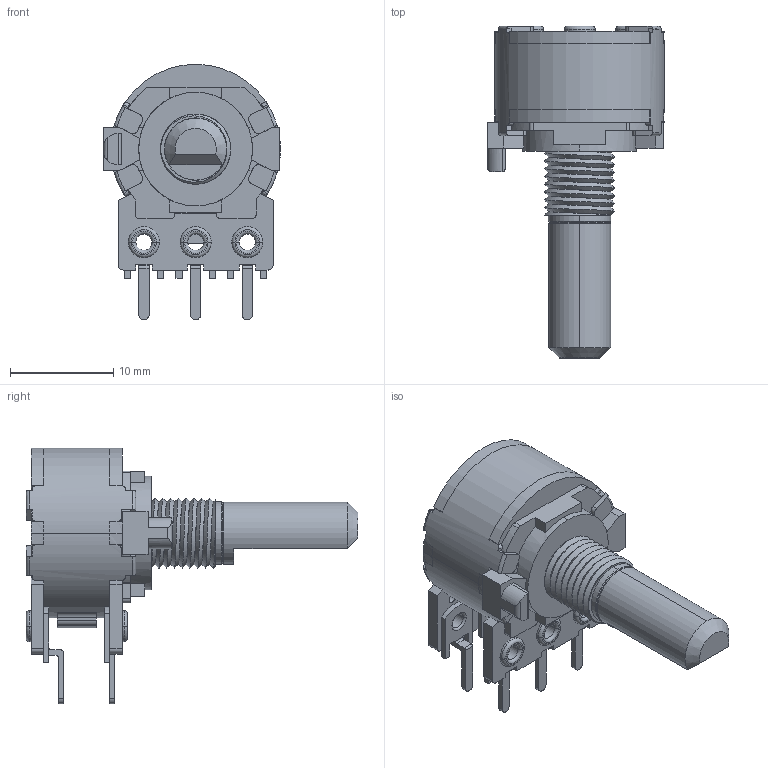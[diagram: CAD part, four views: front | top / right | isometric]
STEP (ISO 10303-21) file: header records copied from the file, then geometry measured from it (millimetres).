
FILE_DESCRIPTION (( 'STEP AP214' ), '1' );
FILE_NAME ('RK16312-L20.STEP', '2012-02-21T02:20:45', ( '' ), ( '' ), 'SwSTEP 2.0', 'SolidWorks 2010', '' );
FILE_SCHEMA (( 'AUTOMOTIVE_DESIGN' ));
Length unit declared in the file: millimetre
Products named in the file (1): RK16312-L20
Bounding box: 17.1 x 32.1 x 24.7 mm (x, y, z)
Volume: 3024.6 mm3; surface area: 2160.3 mm2
Topology: 1 solids, 1 shells, 559 faces, 1594 edges, 1026 vertices
Faces by surface type: plane 321, cylinder 185, torus 44, cone 7, bspline 2
Entity records: 25371 total; most frequent: CARTESIAN_POINT 4417, ORIENTED_EDGE 3188, DIRECTION 3105, EDGE_CURVE 1594, AXIS2_PLACEMENT_3D 1066, VERTEX_POINT 1026, LINE 973, VECTOR 973
